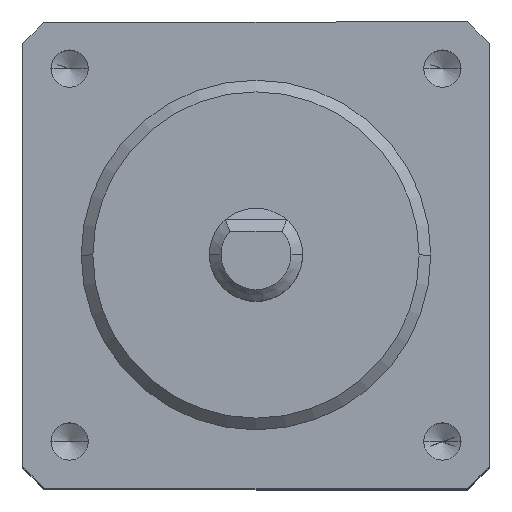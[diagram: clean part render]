
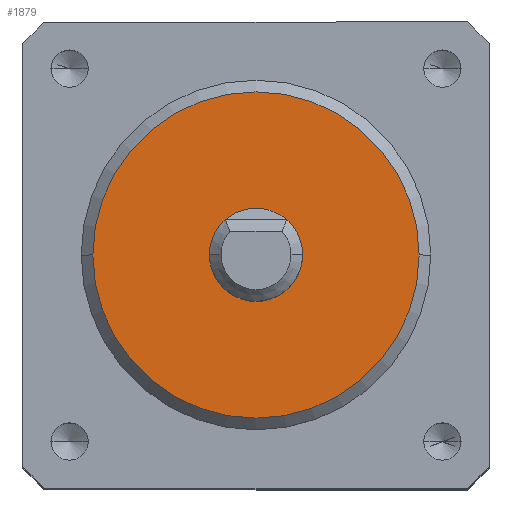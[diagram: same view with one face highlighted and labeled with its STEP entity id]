
A CAD part, top view. The second image highlights one B-rep face of the part: STEP entity #1879.
In plain terms, the highlighted planar face has unit normal (0, 0, 1).
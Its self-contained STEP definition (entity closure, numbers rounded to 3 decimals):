
#9 = AXIS2_PLACEMENT_3D ( 'NONE', #463, #685, #450 ) ;
#97 = VERTEX_POINT ( 'NONE', #727 ) ;
#121 = ORIENTED_EDGE ( 'NONE', *, *, #2459, .T. ) ;
#164 = CIRCLE ( 'NONE', #9, 7. ) ;
#189 = VERTEX_POINT ( 'NONE', #2349 ) ;
#259 = AXIS2_PLACEMENT_3D ( 'NONE', #1359, #669, #660 ) ;
#323 = AXIS2_PLACEMENT_3D ( 'NONE', #2842, #630, #1795 ) ;
#376 = ORIENTED_EDGE ( 'NONE', *, *, #1099, .T. ) ;
#378 = EDGE_LOOP ( 'NONE', ( #376, #1971 ) ) ;
#450 = DIRECTION ( 'NONE',  ( 1., 0., 0. ) ) ;
#463 = CARTESIAN_POINT ( 'NONE',  ( 0., 0., 1.5 ) ) ;
#630 = DIRECTION ( 'NONE',  ( 0., 0., -1. ) ) ;
#660 = DIRECTION ( 'NONE',  ( 1., 0., 0. ) ) ;
#669 = DIRECTION ( 'NONE',  ( 0., 0., -1. ) ) ;
#685 = DIRECTION ( 'NONE',  ( 0., 0., 1. ) ) ;
#715 = PLANE ( 'NONE',  #1854 ) ;
#727 = CARTESIAN_POINT ( 'NONE',  ( -2., 0., 1.5 ) ) ;
#941 = DIRECTION ( 'NONE',  ( 1., 0., 0. ) ) ;
#960 = VERTEX_POINT ( 'NONE', #1104 ) ;
#996 = EDGE_CURVE ( 'NONE', #1550, #960, #164, .T. ) ;
#1099 = EDGE_CURVE ( 'NONE', #97, #189, #1732, .T. ) ;
#1104 = CARTESIAN_POINT ( 'NONE',  ( -7., 0., 1.5 ) ) ;
#1195 = DIRECTION ( 'NONE',  ( 0., 0., 1. ) ) ;
#1301 = EDGE_CURVE ( 'NONE', #189, #97, #2110, .T. ) ;
#1359 = CARTESIAN_POINT ( 'NONE',  ( 0., 0., 1.5 ) ) ;
#1362 = FACE_BOUND ( 'NONE', #378, .T. ) ;
#1404 = DIRECTION ( 'NONE',  ( 0., 0., 1. ) ) ;
#1550 = VERTEX_POINT ( 'NONE', #2156 ) ;
#1690 = ORIENTED_EDGE ( 'NONE', *, *, #996, .T. ) ;
#1732 = CIRCLE ( 'NONE', #323, 2. ) ;
#1795 = DIRECTION ( 'NONE',  ( 1., 0., 0. ) ) ;
#1854 = AXIS2_PLACEMENT_3D ( 'NONE', #2324, #1404, #941 ) ;
#1879 = ADVANCED_FACE ( 'NONE', ( #2608, #1362 ), #715, .T. ) ;
#1971 = ORIENTED_EDGE ( 'NONE', *, *, #1301, .T. ) ;
#2110 = CIRCLE ( 'NONE', #259, 2. ) ;
#2156 = CARTESIAN_POINT ( 'NONE',  ( 7., 0., 1.5 ) ) ;
#2324 = CARTESIAN_POINT ( 'NONE',  ( 0., 0., 1.5 ) ) ;
#2349 = CARTESIAN_POINT ( 'NONE',  ( 2., 0., 1.5 ) ) ;
#2459 = EDGE_CURVE ( 'NONE', #960, #1550, #2894, .T. ) ;
#2596 = CARTESIAN_POINT ( 'NONE',  ( 0., 0., 1.5 ) ) ;
#2608 = FACE_OUTER_BOUND ( 'NONE', #2624, .T. ) ;
#2624 = EDGE_LOOP ( 'NONE', ( #121, #1690 ) ) ;
#2809 = DIRECTION ( 'NONE',  ( 1., 0., 0. ) ) ;
#2842 = CARTESIAN_POINT ( 'NONE',  ( 0., 0., 1.5 ) ) ;
#2869 = AXIS2_PLACEMENT_3D ( 'NONE', #2596, #1195, #2809 ) ;
#2894 = CIRCLE ( 'NONE', #2869, 7. ) ;
